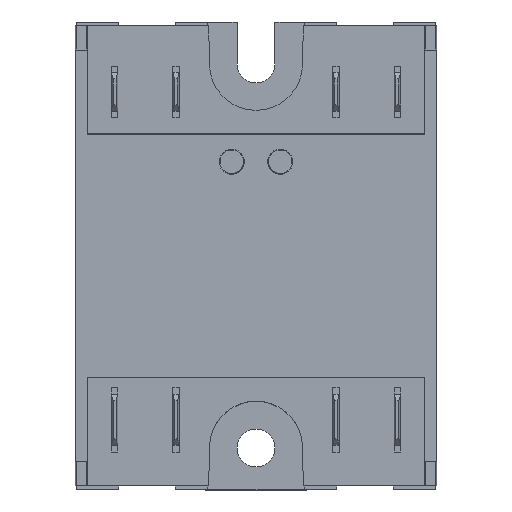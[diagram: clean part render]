
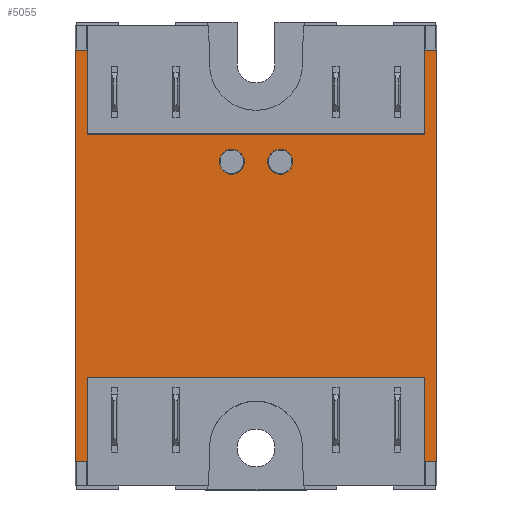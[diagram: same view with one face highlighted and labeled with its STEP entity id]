
A CAD part, top view. The second image highlights one B-rep face of the part: STEP entity #5055.
In plain terms, the highlighted planar face has unit normal (0, 0, 1).
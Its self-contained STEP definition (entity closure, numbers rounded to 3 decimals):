
#3038=CARTESIAN_POINT('',(-20.944,15.056,18.));
#3039=VERTEX_POINT('',#3038);
#3048=CARTESIAN_POINT('',(20.944,15.056,18.));
#3049=VERTEX_POINT('',#3048);
#3050=CARTESIAN_POINT('',(20.944,15.056,18.));
#3051=DIRECTION('',(-1.0,0.0,0.0));
#3052=VECTOR('',#3051,41.887);
#3053=LINE('',#3050,#3052);
#3054=EDGE_CURVE('',#3049,#3039,#3053,.T.);
#3972=CARTESIAN_POINT('',(20.944,-15.056,18.));
#3973=VERTEX_POINT('',#3972);
#3982=CARTESIAN_POINT('',(-20.944,-15.056,18.));
#3983=VERTEX_POINT('',#3982);
#3984=CARTESIAN_POINT('',(-20.944,-15.056,18.));
#3985=DIRECTION('',(1.0,0.0,0.0));
#3986=VECTOR('',#3985,41.887);
#3987=LINE('',#3984,#3986);
#3988=EDGE_CURVE('',#3983,#3973,#3987,.T.);
#4229=CARTESIAN_POINT('',(1.45,11.65,18.));
#4230=VERTEX_POINT('',#4229);
#4231=CARTESIAN_POINT('',(3.,11.65,18.));
#4232=DIRECTION('',(0.0,0.0,-1.0));
#4233=DIRECTION('',(1.0,0.0,0.0));
#4234=AXIS2_PLACEMENT_3D('',#4231,#4232,#4233);
#4235=CIRCLE('',#4234,1.55);
#4236=EDGE_CURVE('',#4230,#4230,#4235,.T.);
#4279=CARTESIAN_POINT('',(-4.55,11.65,18.));
#4280=VERTEX_POINT('',#4279);
#4281=CARTESIAN_POINT('',(-3.,11.65,18.));
#4282=DIRECTION('',(0.0,0.0,-1.0));
#4283=DIRECTION('',(1.0,0.0,0.0));
#4284=AXIS2_PLACEMENT_3D('',#4281,#4282,#4283);
#4285=CIRCLE('',#4284,1.55);
#4286=EDGE_CURVE('',#4280,#4280,#4285,.T.);
#4651=CARTESIAN_POINT('',(20.944,25.5,18.));
#4652=VERTEX_POINT('',#4651);
#4659=CARTESIAN_POINT('',(22.33,25.5,18.));
#4660=VERTEX_POINT('',#4659);
#4661=CARTESIAN_POINT('',(22.33,25.5,18.));
#4662=DIRECTION('',(-1.0,0.0,0.0));
#4663=VECTOR('',#4662,1.387);
#4664=LINE('',#4661,#4663);
#4665=EDGE_CURVE('',#4660,#4652,#4664,.T.);
#4779=CARTESIAN_POINT('',(22.33,-25.5,18.));
#4780=VERTEX_POINT('',#4779);
#4787=CARTESIAN_POINT('',(20.944,-25.5,18.));
#4788=VERTEX_POINT('',#4787);
#4789=CARTESIAN_POINT('',(20.944,-25.5,18.));
#4790=DIRECTION('',(1.0,0.0,0.0));
#4791=VECTOR('',#4790,1.387);
#4792=LINE('',#4789,#4791);
#4793=EDGE_CURVE('',#4788,#4780,#4792,.T.);
#4819=CARTESIAN_POINT('',(-20.944,-25.5,18.0));
#4820=VERTEX_POINT('',#4819);
#4827=CARTESIAN_POINT('',(-22.33,-25.5,18.0));
#4828=VERTEX_POINT('',#4827);
#4829=CARTESIAN_POINT('',(-22.33,-25.5,18.0));
#4830=DIRECTION('',(1.0,0.0,0.0));
#4831=VECTOR('',#4830,1.387);
#4832=LINE('',#4829,#4831);
#4833=EDGE_CURVE('',#4828,#4820,#4832,.T.);
#4947=CARTESIAN_POINT('',(-22.33,25.5,18.));
#4948=VERTEX_POINT('',#4947);
#4955=CARTESIAN_POINT('',(-20.944,25.5,18.));
#4956=VERTEX_POINT('',#4955);
#4957=CARTESIAN_POINT('',(-20.944,25.5,18.));
#4958=DIRECTION('',(-1.0,0.0,0.0));
#4959=VECTOR('',#4958,1.387);
#4960=LINE('',#4957,#4959);
#4961=EDGE_CURVE('',#4956,#4948,#4960,.T.);
#4977=CARTESIAN_POINT('',(20.944,-15.056,18.));
#4978=DIRECTION('',(0.0,-1.0,0.0));
#4979=VECTOR('',#4978,10.444);
#4980=LINE('',#4977,#4979);
#4981=EDGE_CURVE('',#3973,#4788,#4980,.T.);
#4999=CARTESIAN_POINT('',(-20.944,-25.5,18.0));
#5000=DIRECTION('',(0.0,1.0,0.0));
#5001=VECTOR('',#5000,10.444);
#5002=LINE('',#4999,#5001);
#5003=EDGE_CURVE('',#4820,#3983,#5002,.T.);
#5010=CARTESIAN_POINT('',(24.563,28.05,18.));
#5011=DIRECTION('',(0.0,0.0,1.0));
#5012=DIRECTION('',(-1.0,0.0,0.0));
#5013=AXIS2_PLACEMENT_3D('',#5010,#5011,#5012);
#5014=PLANE('',#5013);
#5015=ORIENTED_EDGE('',*,*,#4961,.T.);
#5016=CARTESIAN_POINT('',(-22.33,-25.5,18.0));
#5017=DIRECTION('',(0.0,1.0,0.0));
#5018=VECTOR('',#5017,51.);
#5019=LINE('',#5016,#5018);
#5020=EDGE_CURVE('',#4828,#4948,#5019,.T.);
#5021=ORIENTED_EDGE('',*,*,#5020,.F.);
#5022=ORIENTED_EDGE('',*,*,#4833,.T.);
#5023=ORIENTED_EDGE('',*,*,#5003,.T.);
#5024=ORIENTED_EDGE('',*,*,#3988,.T.);
#5025=ORIENTED_EDGE('',*,*,#4981,.T.);
#5026=ORIENTED_EDGE('',*,*,#4793,.T.);
#5027=CARTESIAN_POINT('',(22.33,25.5,18.));
#5028=DIRECTION('',(0.0,-1.0,0.0));
#5029=VECTOR('',#5028,51.);
#5030=LINE('',#5027,#5029);
#5031=EDGE_CURVE('',#4660,#4780,#5030,.T.);
#5032=ORIENTED_EDGE('',*,*,#5031,.F.);
#5033=ORIENTED_EDGE('',*,*,#4665,.T.);
#5034=CARTESIAN_POINT('',(20.944,25.5,18.));
#5035=DIRECTION('',(0.0,-1.0,0.0));
#5036=VECTOR('',#5035,10.444);
#5037=LINE('',#5034,#5036);
#5038=EDGE_CURVE('',#4652,#3049,#5037,.T.);
#5039=ORIENTED_EDGE('',*,*,#5038,.T.);
#5040=ORIENTED_EDGE('',*,*,#3054,.T.);
#5041=CARTESIAN_POINT('',(-20.944,15.056,18.));
#5042=DIRECTION('',(0.0,1.0,0.0));
#5043=VECTOR('',#5042,10.444);
#5044=LINE('',#5041,#5043);
#5045=EDGE_CURVE('',#3039,#4956,#5044,.T.);
#5046=ORIENTED_EDGE('',*,*,#5045,.T.);
#5047=EDGE_LOOP('',(#5015,#5021,#5022,#5023,#5024,#5025,#5026,#5032,#5033,#5039,#5040,#5046));
#5048=FACE_OUTER_BOUND('',#5047,.T.);
#5049=ORIENTED_EDGE('',*,*,#4286,.T.);
#5050=EDGE_LOOP('',(#5049));
#5051=FACE_BOUND('',#5050,.T.);
#5052=ORIENTED_EDGE('',*,*,#4236,.T.);
#5053=EDGE_LOOP('',(#5052));
#5054=FACE_BOUND('',#5053,.T.);
#5055=ADVANCED_FACE('',(#5048,#5051,#5054),#5014,.T.);
